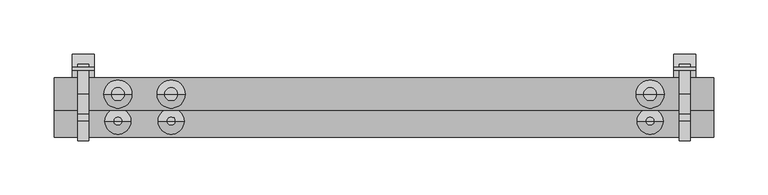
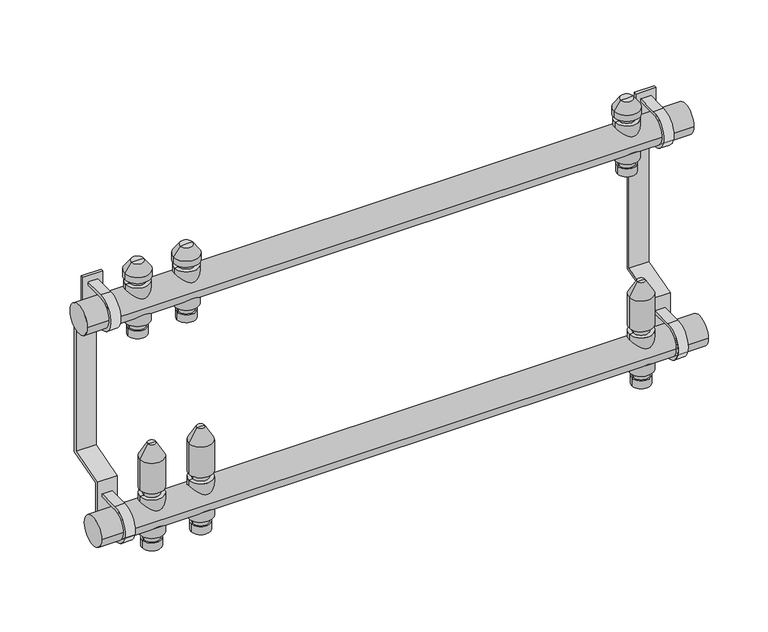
"""IFC4 building model written with IfcOpenShell, lengths in millimetres: valve geometry, PL AT_Manifold_FT-EV : 11 circuits."""

from ifc_helpers import new_model, si_unit, point, frame, frame_2d, origin, origin_2d, place, context, project, spatial, polyline, circle_curve, trimmed, segment, composite_curve, outline, extrude, source, transform, mapped, element, save
from ifc_brep_helpers import plane_surface, cylinder_surface, revolved_surface, advanced_brep


def valve_25ad0012(model_context):
    return source(origin(), model_context, "Body", "SolidModel", [
        advanced_brep(
        [(81.7, 0.0, -35.11267), (100.7, 0.0, -35.11267), (91.2, 0.0, -35.11267), (81.7, 0.0, -27.0369646), (100.7, 0.0, -27.0369646), (83.2, 0.0, -27.0369646), (99.2, 0.0, -27.0369646), (83.2, 0.0, -20.330253), (99.2, 0.0, -20.330253), (79.2, 0.0, -20.330253), (103.2, 0.0, -20.330253), (79.2, 0.0, 20.330253), (103.2, 0.0, 20.330253), (83.2, 0.0, 20.330253), (99.2, 0.0, 20.330253), (83.2, 0.0, 27.0474786), (99.2, 0.0, 27.0474786), (79.2, 0.0, 27.0474786), (103.2, 0.0, 27.0474786), (79.2, 0.0, 59.4084325), (103.2, 0.0, 59.4084325), (87.2, 0.0, 73.264839), (95.2, 0.0, 73.264839), (91.2, 0.0, 73.264839)],
        [
            (0, 1, circle_curve(frame((91.2, 0.0, -35.11267), z_axis=(0.0, 0.0, -1.0), x_axis=(1.0, 0.0, 0.0)), 9.5)),
            (1, 2),
            (2, 0),
            (1, 0, circle_curve(frame((91.2, 0.0, -35.11267), z_axis=(0.0, 0.0, -1.0), x_axis=(1.0, 0.0, 0.0)), 9.5)),
            (3, 4, circle_curve(frame((91.2, 0.0, -27.0369646), z_axis=(0.0, 0.0, -1.0), x_axis=(1.0, 0.0, 0.0)), 9.5)),
            (4, 1),
            (0, 3),
            (4, 3, circle_curve(frame((91.2, 0.0, -27.0369646), z_axis=(0.0, 0.0, -1.0), x_axis=(1.0, 0.0, 0.0)), 9.5)),
            (5, 6, circle_curve(frame((91.2, 0.0, -27.0369646), z_axis=(0.0, 0.0, -1.0), x_axis=(1.0, 0.0, 0.0)), 8.0)),
            (6, 4),
            (3, 5),
            (6, 5, circle_curve(frame((91.2, 0.0, -27.0369646), z_axis=(0.0, 0.0, -1.0), x_axis=(1.0, 0.0, 0.0)), 8.0)),
            (7, 8, circle_curve(frame((91.2, 0.0, -20.330253), z_axis=(0.0, 0.0, -1.0), x_axis=(1.0, 0.0, 0.0)), 8.0)),
            (8, 6),
            (5, 7),
            (8, 7, circle_curve(frame((91.2, 0.0, -20.330253), z_axis=(0.0, 0.0, -1.0), x_axis=(1.0, 0.0, 0.0)), 8.0)),
            (9, 10, circle_curve(frame((91.2, 0.0, -20.330253), z_axis=(0.0, 0.0, -1.0), x_axis=(1.0, 0.0, 0.0)), 12.0)),
            (10, 8),
            (7, 9),
            (10, 9, circle_curve(frame((91.2, 0.0, -20.330253), z_axis=(0.0, 0.0, -1.0), x_axis=(1.0, 0.0, 0.0)), 12.0)),
            (11, 12, circle_curve(frame((91.2, 0.0, 20.330253), z_axis=(0.0, 0.0, -1.0), x_axis=(1.0, 0.0, 0.0)), 12.0)),
            (12, 10),
            (9, 11),
            (12, 11, circle_curve(frame((91.2, 0.0, 20.330253), z_axis=(0.0, 0.0, -1.0), x_axis=(1.0, 0.0, 0.0)), 12.0)),
            (13, 14, circle_curve(frame((91.2, 0.0, 20.330253), z_axis=(0.0, 0.0, -1.0), x_axis=(1.0, 0.0, 0.0)), 8.0)),
            (14, 12),
            (11, 13),
            (14, 13, circle_curve(frame((91.2, 0.0, 20.330253), z_axis=(0.0, 0.0, -1.0), x_axis=(1.0, 0.0, 0.0)), 8.0)),
            (15, 16, circle_curve(frame((91.2, 0.0, 27.0474786), z_axis=(0.0, 0.0, -1.0), x_axis=(1.0, 0.0, 0.0)), 8.0)),
            (16, 14),
            (13, 15),
            (16, 15, circle_curve(frame((91.2, 0.0, 27.0474786), z_axis=(0.0, 0.0, -1.0), x_axis=(1.0, 0.0, 0.0)), 8.0)),
            (17, 18, circle_curve(frame((91.2, 0.0, 27.0474786), z_axis=(0.0, 0.0, -1.0), x_axis=(1.0, 0.0, 0.0)), 12.0)),
            (18, 16),
            (15, 17),
            (18, 17, circle_curve(frame((91.2, 0.0, 27.0474786), z_axis=(0.0, 0.0, -1.0), x_axis=(1.0, 0.0, 0.0)), 12.0)),
            (19, 20, circle_curve(frame((91.2, 0.0, 59.4084325), z_axis=(0.0, 0.0, -1.0), x_axis=(1.0, 0.0, 0.0)), 12.0)),
            (20, 18),
            (17, 19),
            (20, 19, circle_curve(frame((91.2, 0.0, 59.4084325), z_axis=(0.0, 0.0, -1.0), x_axis=(1.0, 0.0, 0.0)), 12.0)),
            (21, 22, circle_curve(frame((91.2, 0.0, 73.264839), z_axis=(0.0, 0.0, -1.0), x_axis=(1.0, 0.0, 0.0)), 4.0)),
            (22, 20),
            (19, 21),
            (22, 21, circle_curve(frame((91.2, 0.0, 73.264839), z_axis=(0.0, 0.0, -1.0), x_axis=(1.0, 0.0, 0.0)), 4.0)),
            (23, 22),
            (21, 23),
        ],
        [
            plane_surface(frame((91.2, 0.0, -35.11267), z_axis=(0.0, 0.0, -1.0), x_axis=(1.0, 0.0, 0.0))),
            cylinder_surface(frame((91.2, 0.0, 58.264839), z_axis=(0.0, 0.0, 1.0), x_axis=(1.0, 0.0, 0.0)), 9.5),
            plane_surface(frame((91.2, 0.0, -27.0369646), z_axis=(0.0, 0.0, 1.0), x_axis=(1.0, 0.0, 0.0))),
            cylinder_surface(frame((91.2, 0.0, 58.264839), z_axis=(0.0, 0.0, 1.0), x_axis=(1.0, 0.0, 0.0)), 8.0),
            plane_surface(frame((91.2, 0.0, -20.330253), z_axis=(0.0, 0.0, -1.0), x_axis=(1.0, 0.0, 0.0))),
            cylinder_surface(frame((91.2, 0.0, 58.264839), z_axis=(0.0, 0.0, 1.0), x_axis=(1.0, 0.0, 0.0)), 12.0),
            plane_surface(frame((91.2, 0.0, 20.330253), z_axis=(0.0, 0.0, 1.0), x_axis=(1.0, 0.0, 0.0))),
            plane_surface(frame((91.2, 0.0, 27.0474786), z_axis=(0.0, 0.0, -1.0), x_axis=(1.0, 0.0, 0.0))),
            revolved_surface(polyline([(103.2, 0.0, 59.4084325), (95.2, 0.0, 73.264839)]), (91.2, 0.0, 58.264839), (0.0, 0.0, 1.0)),
            plane_surface(frame((91.2, 0.0, 73.264839), z_axis=(0.0, 0.0, 1.0), x_axis=(1.0, 0.0, 0.0))),
        ],
        [
            (0, [[1, 2, 3]]),
            (0, [[4, -3, -2]]),
            (1, [[5, 6, -1, 7]]),
            (1, [[8, -7, -4, -6]]),
            (2, [[9, 10, -5, 11]]),
            (2, [[12, -11, -8, -10]]),
            (3, [[13, 14, -9, 15]]),
            (3, [[16, -15, -12, -14]]),
            (4, [[17, 18, -13, 19]]),
            (4, [[20, -19, -16, -18]]),
            (5, [[21, 22, -17, 23]]),
            (5, [[24, -23, -20, -22]]),
            (6, [[25, 26, -21, 27]]),
            (6, [[28, -27, -24, -26]]),
            (3, [[29, 30, -25, 31]]),
            (3, [[32, -31, -28, -30]]),
            (7, [[33, 34, -29, 35]]),
            (7, [[36, -35, -32, -34]]),
            (5, [[37, 38, -33, 39]]),
            (5, [[40, -39, -36, -38]]),
            (8, [[41, 42, -37, 43]]),
            (8, [[44, -43, -40, -42]]),
            (9, [[45, -41, 46]]),
            (9, [[-46, -44, -45]]),
        ],
    ),
        advanced_brep(
        [(81.7, 25.0, 174.88733), (100.7, 25.0, 174.88733), (91.2, 25.0, 174.88733), (81.7, 25.0, 182.9630354), (100.7, 25.0, 182.9630354), (83.2, 25.0, 182.9630354), (99.2, 25.0, 182.9630354), (83.2, 25.0, 189.669747), (99.2, 25.0, 189.669747), (79.2, 25.0, 189.669747), (103.2, 25.0, 189.669747), (79.2, 25.0, 230.330253), (103.2, 25.0, 230.330253), (83.2, 25.0, 230.330253), (99.2, 25.0, 230.330253), (83.2, 25.0, 236.0474786), (99.2, 25.0, 236.0474786), (78.2, 25.0, 236.0474786), (104.2, 25.0, 236.0474786), (78.2, 25.0, 242.337955), (104.2, 25.0, 242.337955), (84.8551779, 25.0, 251.842534), (97.5448221, 25.0, 251.842534), (91.2, 25.0, 251.842534)],
        [
            (0, 1, circle_curve(frame((91.2, 25.0, 174.88733), z_axis=(0.0, 0.0, -1.0), x_axis=(1.0, 0.0, 0.0)), 9.5)),
            (1, 2),
            (2, 0),
            (1, 0, circle_curve(frame((91.2, 25.0, 174.88733), z_axis=(0.0, 0.0, -1.0), x_axis=(1.0, 0.0, 0.0)), 9.5)),
            (3, 4, circle_curve(frame((91.2, 25.0, 182.9630354), z_axis=(0.0, 0.0, -1.0), x_axis=(1.0, 0.0, 0.0)), 9.5)),
            (4, 1),
            (0, 3),
            (4, 3, circle_curve(frame((91.2, 25.0, 182.9630354), z_axis=(0.0, 0.0, -1.0), x_axis=(1.0, 0.0, 0.0)), 9.5)),
            (5, 6, circle_curve(frame((91.2, 25.0, 182.9630354), z_axis=(0.0, 0.0, -1.0), x_axis=(1.0, 0.0, 0.0)), 8.0)),
            (6, 4),
            (3, 5),
            (6, 5, circle_curve(frame((91.2, 25.0, 182.9630354), z_axis=(0.0, 0.0, -1.0), x_axis=(1.0, 0.0, 0.0)), 8.0)),
            (7, 8, circle_curve(frame((91.2, 25.0, 189.669747), z_axis=(0.0, 0.0, -1.0), x_axis=(1.0, 0.0, 0.0)), 8.0)),
            (8, 6),
            (5, 7),
            (8, 7, circle_curve(frame((91.2, 25.0, 189.669747), z_axis=(0.0, 0.0, -1.0), x_axis=(1.0, 0.0, 0.0)), 8.0)),
            (9, 10, circle_curve(frame((91.2, 25.0, 189.669747), z_axis=(0.0, 0.0, -1.0), x_axis=(1.0, 0.0, 0.0)), 12.0)),
            (10, 8),
            (7, 9),
            (10, 9, circle_curve(frame((91.2, 25.0, 189.669747), z_axis=(0.0, 0.0, -1.0), x_axis=(1.0, 0.0, 0.0)), 12.0)),
            (11, 12, circle_curve(frame((91.2, 25.0, 230.330253), z_axis=(0.0, 0.0, -1.0), x_axis=(1.0, 0.0, 0.0)), 12.0)),
            (12, 10),
            (9, 11),
            (12, 11, circle_curve(frame((91.2, 25.0, 230.330253), z_axis=(0.0, 0.0, -1.0), x_axis=(1.0, 0.0, 0.0)), 12.0)),
            (13, 14, circle_curve(frame((91.2, 25.0, 230.330253), z_axis=(0.0, 0.0, -1.0), x_axis=(1.0, 0.0, 0.0)), 8.0)),
            (14, 12),
            (11, 13),
            (14, 13, circle_curve(frame((91.2, 25.0, 230.330253), z_axis=(0.0, 0.0, -1.0), x_axis=(1.0, 0.0, 0.0)), 8.0)),
            (15, 16, circle_curve(frame((91.2, 25.0, 236.0474786), z_axis=(0.0, 0.0, -1.0), x_axis=(1.0, 0.0, 0.0)), 8.0)),
            (16, 14),
            (13, 15),
            (16, 15, circle_curve(frame((91.2, 25.0, 236.0474786), z_axis=(0.0, 0.0, -1.0), x_axis=(1.0, 0.0, 0.0)), 8.0)),
            (17, 18, circle_curve(frame((91.2, 25.0, 236.0474786), z_axis=(0.0, 0.0, -1.0), x_axis=(1.0, 0.0, 0.0)), 13.0)),
            (18, 16),
            (15, 17),
            (18, 17, circle_curve(frame((91.2, 25.0, 236.0474786), z_axis=(0.0, 0.0, -1.0), x_axis=(1.0, 0.0, 0.0)), 13.0)),
            (19, 20, circle_curve(frame((91.2, 25.0, 242.337955), z_axis=(0.0, 0.0, -1.0), x_axis=(1.0, 0.0, 0.0)), 13.0)),
            (20, 18),
            (17, 19),
            (20, 19, circle_curve(frame((91.2, 25.0, 242.337955), z_axis=(0.0, 0.0, -1.0), x_axis=(1.0, 0.0, 0.0)), 13.0)),
            (21, 22, circle_curve(frame((91.2, 25.0, 251.842534), z_axis=(0.0, 0.0, -1.0), x_axis=(1.0, 0.0, 0.0)), 6.3448221)),
            (22, 20),
            (19, 21),
            (22, 21, circle_curve(frame((91.2, 25.0, 251.842534), z_axis=(0.0, 0.0, -1.0), x_axis=(1.0, 0.0, 0.0)), 6.3448221)),
            (23, 22),
            (21, 23),
        ],
        [
            plane_surface(frame((91.2, 25.0, 174.88733), z_axis=(0.0, 0.0, -1.0), x_axis=(1.0, 0.0, 0.0))),
            cylinder_surface(frame((91.2, 25.0, 247.7026565), z_axis=(0.0, 0.0, 1.0), x_axis=(1.0, 0.0, 0.0)), 9.5),
            plane_surface(frame((91.2, 25.0, 182.9630354), z_axis=(0.0, 0.0, 1.0), x_axis=(1.0, 0.0, 0.0))),
            cylinder_surface(frame((91.2, 25.0, 247.7026565), z_axis=(0.0, 0.0, 1.0), x_axis=(1.0, 0.0, 0.0)), 8.0),
            plane_surface(frame((91.2, 25.0, 189.669747), z_axis=(0.0, 0.0, -1.0), x_axis=(1.0, 0.0, 0.0))),
            cylinder_surface(frame((91.2, 25.0, 247.7026565), z_axis=(0.0, 0.0, 1.0), x_axis=(1.0, 0.0, 0.0)), 12.0),
            plane_surface(frame((91.2, 25.0, 230.330253), z_axis=(0.0, 0.0, 1.0), x_axis=(1.0, 0.0, 0.0))),
            plane_surface(frame((91.2, 25.0, 236.0474786), z_axis=(0.0, 0.0, -1.0), x_axis=(1.0, 0.0, 0.0))),
            cylinder_surface(frame((91.2, 25.0, 247.7026565), z_axis=(0.0, 0.0, 1.0), x_axis=(1.0, 0.0, 0.0)), 13.0),
            revolved_surface(polyline([(104.2, 25.0, 242.337955), (97.5448221, 25.0, 251.842534)]), (91.2, 25.0, 247.7026565), (0.0, 0.0, 1.0)),
            plane_surface(frame((91.2, 25.0, 251.842534), z_axis=(0.0, 0.0, 1.0), x_axis=(1.0, 0.0, 0.0))),
        ],
        [
            (0, [[1, 2, 3]]),
            (0, [[4, -3, -2]]),
            (1, [[5, 6, -1, 7]]),
            (1, [[8, -7, -4, -6]]),
            (2, [[9, 10, -5, 11]]),
            (2, [[12, -11, -8, -10]]),
            (3, [[13, 14, -9, 15]]),
            (3, [[16, -15, -12, -14]]),
            (4, [[17, 18, -13, 19]]),
            (4, [[20, -19, -16, -18]]),
            (5, [[21, 22, -17, 23]]),
            (5, [[24, -23, -20, -22]]),
            (6, [[25, 26, -21, 27]]),
            (6, [[28, -27, -24, -26]]),
            (3, [[29, 30, -25, 31]]),
            (3, [[32, -31, -28, -30]]),
            (7, [[33, 34, -29, 35]]),
            (7, [[36, -35, -32, -34]]),
            (8, [[37, 38, -33, 39]]),
            (8, [[40, -39, -36, -38]]),
            (9, [[41, 42, -37, 43]]),
            (9, [[44, -43, -40, -42]]),
            (10, [[45, -41, 46]]),
            (10, [[-46, -44, -45]]),
        ],
    ),
        advanced_brep(
        [(524.5, 0.0, -35.11267), (543.5, 0.0, -35.11267), (534.0, 0.0, -35.11267), (524.5, 0.0, -27.0369646), (543.5, 0.0, -27.0369646), (526.0, 0.0, -27.0369646), (542.0, 0.0, -27.0369646), (526.0, 0.0, -20.330253), (542.0, 0.0, -20.330253), (522.0, 0.0, -20.330253), (546.0, 0.0, -20.330253), (522.0, 0.0, 20.330253), (546.0, 0.0, 20.330253), (526.0, 0.0, 20.330253), (542.0, 0.0, 20.330253), (526.0, 0.0, 27.0474786), (542.0, 0.0, 27.0474786), (522.0, 0.0, 27.0474786), (546.0, 0.0, 27.0474786), (522.0, 0.0, 59.4084325), (546.0, 0.0, 59.4084325), (530.0, 0.0, 73.264839), (538.0, 0.0, 73.264839), (534.0, 0.0, 73.264839)],
        [
            (0, 1, circle_curve(frame((534.0, 0.0, -35.11267), z_axis=(0.0, 0.0, -1.0), x_axis=(1.0, 0.0, 0.0)), 9.5)),
            (1, 2),
            (2, 0),
            (1, 0, circle_curve(frame((534.0, 0.0, -35.11267), z_axis=(0.0, 0.0, -1.0), x_axis=(1.0, 0.0, 0.0)), 9.5)),
            (3, 4, circle_curve(frame((534.0, 0.0, -27.0369646), z_axis=(0.0, 0.0, -1.0), x_axis=(1.0, 0.0, 0.0)), 9.5)),
            (4, 1),
            (0, 3),
            (4, 3, circle_curve(frame((534.0, 0.0, -27.0369646), z_axis=(0.0, 0.0, -1.0), x_axis=(1.0, 0.0, 0.0)), 9.5)),
            (5, 6, circle_curve(frame((534.0, 0.0, -27.0369646), z_axis=(0.0, 0.0, -1.0), x_axis=(1.0, 0.0, 0.0)), 8.0)),
            (6, 4),
            (3, 5),
            (6, 5, circle_curve(frame((534.0, 0.0, -27.0369646), z_axis=(0.0, 0.0, -1.0), x_axis=(1.0, 0.0, 0.0)), 8.0)),
            (7, 8, circle_curve(frame((534.0, 0.0, -20.330253), z_axis=(0.0, 0.0, -1.0), x_axis=(1.0, 0.0, 0.0)), 8.0)),
            (8, 6),
            (5, 7),
            (8, 7, circle_curve(frame((534.0, 0.0, -20.330253), z_axis=(0.0, 0.0, -1.0), x_axis=(1.0, 0.0, 0.0)), 8.0)),
            (9, 10, circle_curve(frame((534.0, 0.0, -20.330253), z_axis=(0.0, 0.0, -1.0), x_axis=(1.0, 0.0, 0.0)), 12.0)),
            (10, 8),
            (7, 9),
            (10, 9, circle_curve(frame((534.0, 0.0, -20.330253), z_axis=(0.0, 0.0, -1.0), x_axis=(1.0, 0.0, 0.0)), 12.0)),
            (11, 12, circle_curve(frame((534.0, 0.0, 20.330253), z_axis=(0.0, 0.0, -1.0), x_axis=(1.0, 0.0, 0.0)), 12.0)),
            (12, 10),
            (9, 11),
            (12, 11, circle_curve(frame((534.0, 0.0, 20.330253), z_axis=(0.0, 0.0, -1.0), x_axis=(1.0, 0.0, 0.0)), 12.0)),
            (13, 14, circle_curve(frame((534.0, 0.0, 20.330253), z_axis=(0.0, 0.0, -1.0), x_axis=(1.0, 0.0, 0.0)), 8.0)),
            (14, 12),
            (11, 13),
            (14, 13, circle_curve(frame((534.0, 0.0, 20.330253), z_axis=(0.0, 0.0, -1.0), x_axis=(1.0, 0.0, 0.0)), 8.0)),
            (15, 16, circle_curve(frame((534.0, 0.0, 27.0474786), z_axis=(0.0, 0.0, -1.0), x_axis=(1.0, 0.0, 0.0)), 8.0)),
            (16, 14),
            (13, 15),
            (16, 15, circle_curve(frame((534.0, 0.0, 27.0474786), z_axis=(0.0, 0.0, -1.0), x_axis=(1.0, 0.0, 0.0)), 8.0)),
            (17, 18, circle_curve(frame((534.0, 0.0, 27.0474786), z_axis=(0.0, 0.0, -1.0), x_axis=(1.0, 0.0, 0.0)), 12.0)),
            (18, 16),
            (15, 17),
            (18, 17, circle_curve(frame((534.0, 0.0, 27.0474786), z_axis=(0.0, 0.0, -1.0), x_axis=(1.0, 0.0, 0.0)), 12.0)),
            (19, 20, circle_curve(frame((534.0, 0.0, 59.4084325), z_axis=(0.0, 0.0, -1.0), x_axis=(1.0, 0.0, 0.0)), 12.0)),
            (20, 18),
            (17, 19),
            (20, 19, circle_curve(frame((534.0, 0.0, 59.4084325), z_axis=(0.0, 0.0, -1.0), x_axis=(1.0, 0.0, 0.0)), 12.0)),
            (21, 22, circle_curve(frame((534.0, 0.0, 73.264839), z_axis=(0.0, 0.0, -1.0), x_axis=(1.0, 0.0, 0.0)), 4.0)),
            (22, 20),
            (19, 21),
            (22, 21, circle_curve(frame((534.0, 0.0, 73.264839), z_axis=(0.0, 0.0, -1.0), x_axis=(1.0, 0.0, 0.0)), 4.0)),
            (23, 22),
            (21, 23),
        ],
        [
            plane_surface(frame((534.0, 0.0, -35.11267), z_axis=(0.0, 0.0, -1.0), x_axis=(1.0, 0.0, 0.0))),
            cylinder_surface(frame((534.0, 0.0, 58.264839), z_axis=(0.0, 0.0, 1.0), x_axis=(1.0, 0.0, 0.0)), 9.5),
            plane_surface(frame((534.0, 0.0, -27.0369646), z_axis=(0.0, 0.0, 1.0), x_axis=(1.0, 0.0, 0.0))),
            cylinder_surface(frame((534.0, 0.0, 58.264839), z_axis=(0.0, 0.0, 1.0), x_axis=(1.0, 0.0, 0.0)), 8.0),
            plane_surface(frame((534.0, 0.0, -20.330253), z_axis=(0.0, 0.0, -1.0), x_axis=(1.0, 0.0, 0.0))),
            cylinder_surface(frame((534.0, 0.0, 58.264839), z_axis=(0.0, 0.0, 1.0), x_axis=(1.0, 0.0, 0.0)), 12.0),
            plane_surface(frame((534.0, 0.0, 20.330253), z_axis=(0.0, 0.0, 1.0), x_axis=(1.0, 0.0, 0.0))),
            plane_surface(frame((534.0, 0.0, 27.0474786), z_axis=(0.0, 0.0, -1.0), x_axis=(1.0, 0.0, 0.0))),
            revolved_surface(polyline([(546.0, 0.0, 59.4084325), (538.0, 0.0, 73.264839)]), (534.0, 0.0, 58.264839), (0.0, 0.0, 1.0)),
            plane_surface(frame((534.0, 0.0, 73.264839), z_axis=(0.0, 0.0, 1.0), x_axis=(1.0, 0.0, 0.0))),
        ],
        [
            (0, [[1, 2, 3]]),
            (0, [[4, -3, -2]]),
            (1, [[5, 6, -1, 7]]),
            (1, [[8, -7, -4, -6]]),
            (2, [[9, 10, -5, 11]]),
            (2, [[12, -11, -8, -10]]),
            (3, [[13, 14, -9, 15]]),
            (3, [[16, -15, -12, -14]]),
            (4, [[17, 18, -13, 19]]),
            (4, [[20, -19, -16, -18]]),
            (5, [[21, 22, -17, 23]]),
            (5, [[24, -23, -20, -22]]),
            (6, [[25, 26, -21, 27]]),
            (6, [[28, -27, -24, -26]]),
            (3, [[29, 30, -25, 31]]),
            (3, [[32, -31, -28, -30]]),
            (7, [[33, 34, -29, 35]]),
            (7, [[36, -35, -32, -34]]),
            (5, [[37, 38, -33, 39]]),
            (5, [[40, -39, -36, -38]]),
            (8, [[41, 42, -37, 43]]),
            (8, [[44, -43, -40, -42]]),
            (9, [[45, -41, 46]]),
            (9, [[-46, -44, -45]]),
        ],
    ),
        advanced_brep(
        [(524.5, 25.0, 174.88733), (543.5, 25.0, 174.88733), (534.0, 25.0, 174.88733), (524.5, 25.0, 182.9630354), (543.5, 25.0, 182.9630354), (526.0, 25.0, 182.9630354), (542.0, 25.0, 182.9630354), (526.0, 25.0, 189.669747), (542.0, 25.0, 189.669747), (522.0, 25.0, 189.669747), (546.0, 25.0, 189.669747), (522.0, 25.0, 230.330253), (546.0, 25.0, 230.330253), (526.0, 25.0, 230.330253), (542.0, 25.0, 230.330253), (526.0, 25.0, 236.0474786), (542.0, 25.0, 236.0474786), (521.0, 25.0, 236.0474786), (547.0, 25.0, 236.0474786), (521.0, 25.0, 242.337955), (547.0, 25.0, 242.337955), (527.6551779, 25.0, 251.842534), (540.3448221, 25.0, 251.842534), (534.0, 25.0, 251.842534)],
        [
            (0, 1, circle_curve(frame((534.0, 25.0, 174.88733), z_axis=(0.0, 0.0, -1.0), x_axis=(1.0, 0.0, 0.0)), 9.5)),
            (1, 2),
            (2, 0),
            (1, 0, circle_curve(frame((534.0, 25.0, 174.88733), z_axis=(0.0, 0.0, -1.0), x_axis=(1.0, 0.0, 0.0)), 9.5)),
            (3, 4, circle_curve(frame((534.0, 25.0, 182.9630354), z_axis=(0.0, 0.0, -1.0), x_axis=(1.0, 0.0, 0.0)), 9.5)),
            (4, 1),
            (0, 3),
            (4, 3, circle_curve(frame((534.0, 25.0, 182.9630354), z_axis=(0.0, 0.0, -1.0), x_axis=(1.0, 0.0, 0.0)), 9.5)),
            (5, 6, circle_curve(frame((534.0, 25.0, 182.9630354), z_axis=(0.0, 0.0, -1.0), x_axis=(1.0, 0.0, 0.0)), 8.0)),
            (6, 4),
            (3, 5),
            (6, 5, circle_curve(frame((534.0, 25.0, 182.9630354), z_axis=(0.0, 0.0, -1.0), x_axis=(1.0, 0.0, 0.0)), 8.0)),
            (7, 8, circle_curve(frame((534.0, 25.0, 189.669747), z_axis=(0.0, 0.0, -1.0), x_axis=(1.0, 0.0, 0.0)), 8.0)),
            (8, 6),
            (5, 7),
            (8, 7, circle_curve(frame((534.0, 25.0, 189.669747), z_axis=(0.0, 0.0, -1.0), x_axis=(1.0, 0.0, 0.0)), 8.0)),
            (9, 10, circle_curve(frame((534.0, 25.0, 189.669747), z_axis=(0.0, 0.0, -1.0), x_axis=(1.0, 0.0, 0.0)), 12.0)),
            (10, 8),
            (7, 9),
            (10, 9, circle_curve(frame((534.0, 25.0, 189.669747), z_axis=(0.0, 0.0, -1.0), x_axis=(1.0, 0.0, 0.0)), 12.0)),
            (11, 12, circle_curve(frame((534.0, 25.0, 230.330253), z_axis=(0.0, 0.0, -1.0), x_axis=(1.0, 0.0, 0.0)), 12.0)),
            (12, 10),
            (9, 11),
            (12, 11, circle_curve(frame((534.0, 25.0, 230.330253), z_axis=(0.0, 0.0, -1.0), x_axis=(1.0, 0.0, 0.0)), 12.0)),
            (13, 14, circle_curve(frame((534.0, 25.0, 230.330253), z_axis=(0.0, 0.0, -1.0), x_axis=(1.0, 0.0, 0.0)), 8.0)),
            (14, 12),
            (11, 13),
            (14, 13, circle_curve(frame((534.0, 25.0, 230.330253), z_axis=(0.0, 0.0, -1.0), x_axis=(1.0, 0.0, 0.0)), 8.0)),
            (15, 16, circle_curve(frame((534.0, 25.0, 236.0474786), z_axis=(0.0, 0.0, -1.0), x_axis=(1.0, 0.0, 0.0)), 8.0)),
            (16, 14),
            (13, 15),
            (16, 15, circle_curve(frame((534.0, 25.0, 236.0474786), z_axis=(0.0, 0.0, -1.0), x_axis=(1.0, 0.0, 0.0)), 8.0)),
            (17, 18, circle_curve(frame((534.0, 25.0, 236.0474786), z_axis=(0.0, 0.0, -1.0), x_axis=(1.0, 0.0, 0.0)), 13.0)),
            (18, 16),
            (15, 17),
            (18, 17, circle_curve(frame((534.0, 25.0, 236.0474786), z_axis=(0.0, 0.0, -1.0), x_axis=(1.0, 0.0, 0.0)), 13.0)),
            (19, 20, circle_curve(frame((534.0, 25.0, 242.337955), z_axis=(0.0, 0.0, -1.0), x_axis=(1.0, 0.0, 0.0)), 13.0)),
            (20, 18),
            (17, 19),
            (20, 19, circle_curve(frame((534.0, 25.0, 242.337955), z_axis=(0.0, 0.0, -1.0), x_axis=(1.0, 0.0, 0.0)), 13.0)),
            (21, 22, circle_curve(frame((534.0, 25.0, 251.842534), z_axis=(0.0, 0.0, -1.0), x_axis=(1.0, 0.0, 0.0)), 6.3448221)),
            (22, 20),
            (19, 21),
            (22, 21, circle_curve(frame((534.0, 25.0, 251.842534), z_axis=(0.0, 0.0, -1.0), x_axis=(1.0, 0.0, 0.0)), 6.3448221)),
            (23, 22),
            (21, 23),
        ],
        [
            plane_surface(frame((534.0, 25.0, 174.88733), z_axis=(0.0, 0.0, -1.0), x_axis=(1.0, 0.0, 0.0))),
            cylinder_surface(frame((534.0, 25.0, 247.7026565), z_axis=(0.0, 0.0, 1.0), x_axis=(1.0, 0.0, 0.0)), 9.5),
            plane_surface(frame((534.0, 25.0, 182.9630354), z_axis=(0.0, 0.0, 1.0), x_axis=(1.0, 0.0, 0.0))),
            cylinder_surface(frame((534.0, 25.0, 247.7026565), z_axis=(0.0, 0.0, 1.0), x_axis=(1.0, 0.0, 0.0)), 8.0),
            plane_surface(frame((534.0, 25.0, 189.669747), z_axis=(0.0, 0.0, -1.0), x_axis=(1.0, 0.0, 0.0))),
            cylinder_surface(frame((534.0, 25.0, 247.7026565), z_axis=(0.0, 0.0, 1.0), x_axis=(1.0, 0.0, 0.0)), 12.0),
            plane_surface(frame((534.0, 25.0, 230.330253), z_axis=(0.0, 0.0, 1.0), x_axis=(1.0, 0.0, 0.0))),
            plane_surface(frame((534.0, 25.0, 236.0474786), z_axis=(0.0, 0.0, -1.0), x_axis=(1.0, 0.0, 0.0))),
            cylinder_surface(frame((534.0, 25.0, 247.7026565), z_axis=(0.0, 0.0, 1.0), x_axis=(1.0, 0.0, 0.0)), 13.0),
            revolved_surface(polyline([(547.0, 25.0, 242.337955), (540.3448221, 25.0, 251.842534)]), (534.0, 25.0, 247.7026565), (0.0, 0.0, 1.0)),
            plane_surface(frame((534.0, 25.0, 251.842534), z_axis=(0.0, 0.0, 1.0), x_axis=(1.0, 0.0, 0.0))),
        ],
        [
            (0, [[1, 2, 3]]),
            (0, [[4, -3, -2]]),
            (1, [[5, 6, -1, 7]]),
            (1, [[8, -7, -4, -6]]),
            (2, [[9, 10, -5, 11]]),
            (2, [[12, -11, -8, -10]]),
            (3, [[13, 14, -9, 15]]),
            (3, [[16, -15, -12, -14]]),
            (4, [[17, 18, -13, 19]]),
            (4, [[20, -19, -16, -18]]),
            (5, [[21, 22, -17, 23]]),
            (5, [[24, -23, -20, -22]]),
            (6, [[25, 26, -21, 27]]),
            (6, [[28, -27, -24, -26]]),
            (3, [[29, 30, -25, 31]]),
            (3, [[32, -31, -28, -30]]),
            (7, [[33, 34, -29, 35]]),
            (7, [[36, -35, -32, -34]]),
            (8, [[37, 38, -33, 39]]),
            (8, [[40, -39, -36, -38]]),
            (9, [[41, 42, -37, 43]]),
            (9, [[44, -43, -40, -42]]),
            (10, [[45, -41, 46]]),
            (10, [[-46, -44, -45]]),
        ],
    ),
        advanced_brep(
        [(32.5, 25.0, 174.88733), (51.5, 25.0, 174.88733), (42.0, 25.0, 174.88733), (32.5, 25.0, 182.9630354), (51.5, 25.0, 182.9630354), (34.0, 25.0, 182.9630354), (50.0, 25.0, 182.9630354), (34.0, 25.0, 189.669747), (50.0, 25.0, 189.669747), (30.0, 25.0, 189.669747), (54.0, 25.0, 189.669747), (30.0, 25.0, 230.330253), (54.0, 25.0, 230.330253), (34.0, 25.0, 230.330253), (50.0, 25.0, 230.330253), (34.0, 25.0, 236.0474786), (50.0, 25.0, 236.0474786), (29.0, 25.0, 236.0474786), (55.0, 25.0, 236.0474786), (29.0, 25.0, 242.337955), (55.0, 25.0, 242.337955), (35.6551779, 25.0, 251.842534), (48.3448221, 25.0, 251.842534), (42.0, 25.0, 251.842534)],
        [
            (0, 1, circle_curve(frame((42.0, 25.0, 174.88733), z_axis=(0.0, 0.0, -1.0), x_axis=(1.0, 0.0, 0.0)), 9.5)),
            (1, 2),
            (2, 0),
            (1, 0, circle_curve(frame((42.0, 25.0, 174.88733), z_axis=(0.0, 0.0, -1.0), x_axis=(1.0, 0.0, 0.0)), 9.5)),
            (3, 4, circle_curve(frame((42.0, 25.0, 182.9630354), z_axis=(0.0, 0.0, -1.0), x_axis=(1.0, 0.0, 0.0)), 9.5)),
            (4, 1),
            (0, 3),
            (4, 3, circle_curve(frame((42.0, 25.0, 182.9630354), z_axis=(0.0, 0.0, -1.0), x_axis=(1.0, 0.0, 0.0)), 9.5)),
            (5, 6, circle_curve(frame((42.0, 25.0, 182.9630354), z_axis=(0.0, 0.0, -1.0), x_axis=(1.0, 0.0, 0.0)), 8.0)),
            (6, 4),
            (3, 5),
            (6, 5, circle_curve(frame((42.0, 25.0, 182.9630354), z_axis=(0.0, 0.0, -1.0), x_axis=(1.0, 0.0, 0.0)), 8.0)),
            (7, 8, circle_curve(frame((42.0, 25.0, 189.669747), z_axis=(0.0, 0.0, -1.0), x_axis=(1.0, 0.0, 0.0)), 8.0)),
            (8, 6),
            (5, 7),
            (8, 7, circle_curve(frame((42.0, 25.0, 189.669747), z_axis=(0.0, 0.0, -1.0), x_axis=(1.0, 0.0, 0.0)), 8.0)),
            (9, 10, circle_curve(frame((42.0, 25.0, 189.669747), z_axis=(0.0, 0.0, -1.0), x_axis=(1.0, 0.0, 0.0)), 12.0)),
            (10, 8),
            (7, 9),
            (10, 9, circle_curve(frame((42.0, 25.0, 189.669747), z_axis=(0.0, 0.0, -1.0), x_axis=(1.0, 0.0, 0.0)), 12.0)),
            (11, 12, circle_curve(frame((42.0, 25.0, 230.330253), z_axis=(0.0, 0.0, -1.0), x_axis=(1.0, 0.0, 0.0)), 12.0)),
            (12, 10),
            (9, 11),
            (12, 11, circle_curve(frame((42.0, 25.0, 230.330253), z_axis=(0.0, 0.0, -1.0), x_axis=(1.0, 0.0, 0.0)), 12.0)),
            (13, 14, circle_curve(frame((42.0, 25.0, 230.330253), z_axis=(0.0, 0.0, -1.0), x_axis=(1.0, 0.0, 0.0)), 8.0)),
            (14, 12),
            (11, 13),
            (14, 13, circle_curve(frame((42.0, 25.0, 230.330253), z_axis=(0.0, 0.0, -1.0), x_axis=(1.0, 0.0, 0.0)), 8.0)),
            (15, 16, circle_curve(frame((42.0, 25.0, 236.0474786), z_axis=(0.0, 0.0, -1.0), x_axis=(1.0, 0.0, 0.0)), 8.0)),
            (16, 14),
            (13, 15),
            (16, 15, circle_curve(frame((42.0, 25.0, 236.0474786), z_axis=(0.0, 0.0, -1.0), x_axis=(1.0, 0.0, 0.0)), 8.0)),
            (17, 18, circle_curve(frame((42.0, 25.0, 236.0474786), z_axis=(0.0, 0.0, -1.0), x_axis=(1.0, 0.0, 0.0)), 13.0)),
            (18, 16),
            (15, 17),
            (18, 17, circle_curve(frame((42.0, 25.0, 236.0474786), z_axis=(0.0, 0.0, -1.0), x_axis=(1.0, 0.0, 0.0)), 13.0)),
            (19, 20, circle_curve(frame((42.0, 25.0, 242.337955), z_axis=(0.0, 0.0, -1.0), x_axis=(1.0, 0.0, 0.0)), 13.0)),
            (20, 18),
            (17, 19),
            (20, 19, circle_curve(frame((42.0, 25.0, 242.337955), z_axis=(0.0, 0.0, -1.0), x_axis=(1.0, 0.0, 0.0)), 13.0)),
            (21, 22, circle_curve(frame((42.0, 25.0, 251.842534), z_axis=(0.0, 0.0, -1.0), x_axis=(1.0, 0.0, 0.0)), 6.3448221)),
            (22, 20),
            (19, 21),
            (22, 21, circle_curve(frame((42.0, 25.0, 251.842534), z_axis=(0.0, 0.0, -1.0), x_axis=(1.0, 0.0, 0.0)), 6.3448221)),
            (23, 22),
            (21, 23),
        ],
        [
            plane_surface(frame((42.0, 25.0, 174.88733), z_axis=(0.0, 0.0, -1.0), x_axis=(1.0, 0.0, 0.0))),
            cylinder_surface(frame((42.0, 25.0, 247.7026565), z_axis=(0.0, 0.0, 1.0), x_axis=(1.0, 0.0, 0.0)), 9.5),
            plane_surface(frame((42.0, 25.0, 182.9630354), z_axis=(0.0, 0.0, 1.0), x_axis=(1.0, 0.0, 0.0))),
            cylinder_surface(frame((42.0, 25.0, 247.7026565), z_axis=(0.0, 0.0, 1.0), x_axis=(1.0, 0.0, 0.0)), 8.0),
            plane_surface(frame((42.0, 25.0, 189.669747), z_axis=(0.0, 0.0, -1.0), x_axis=(1.0, 0.0, 0.0))),
            cylinder_surface(frame((42.0, 25.0, 247.7026565), z_axis=(0.0, 0.0, 1.0), x_axis=(1.0, 0.0, 0.0)), 12.0),
            plane_surface(frame((42.0, 25.0, 230.330253), z_axis=(0.0, 0.0, 1.0), x_axis=(1.0, 0.0, 0.0))),
            plane_surface(frame((42.0, 25.0, 236.0474786), z_axis=(0.0, 0.0, -1.0), x_axis=(1.0, 0.0, 0.0))),
            cylinder_surface(frame((42.0, 25.0, 247.7026565), z_axis=(0.0, 0.0, 1.0), x_axis=(1.0, 0.0, 0.0)), 13.0),
            revolved_surface(polyline([(55.0, 25.0, 242.337955), (48.3448221, 25.0, 251.842534)]), (42.0, 25.0, 247.7026565), (0.0, 0.0, 1.0)),
            plane_surface(frame((42.0, 25.0, 251.842534), z_axis=(0.0, 0.0, 1.0), x_axis=(1.0, 0.0, 0.0))),
        ],
        [
            (0, [[1, 2, 3]]),
            (0, [[4, -3, -2]]),
            (1, [[5, 6, -1, 7]]),
            (1, [[8, -7, -4, -6]]),
            (2, [[9, 10, -5, 11]]),
            (2, [[12, -11, -8, -10]]),
            (3, [[13, 14, -9, 15]]),
            (3, [[16, -15, -12, -14]]),
            (4, [[17, 18, -13, 19]]),
            (4, [[20, -19, -16, -18]]),
            (5, [[21, 22, -17, 23]]),
            (5, [[24, -23, -20, -22]]),
            (6, [[25, 26, -21, 27]]),
            (6, [[28, -27, -24, -26]]),
            (3, [[29, 30, -25, 31]]),
            (3, [[32, -31, -28, -30]]),
            (7, [[33, 34, -29, 35]]),
            (7, [[36, -35, -32, -34]]),
            (8, [[37, 38, -33, 39]]),
            (8, [[40, -39, -36, -38]]),
            (9, [[41, 42, -37, 43]]),
            (9, [[44, -43, -40, -42]]),
            (10, [[45, -41, 46]]),
            (10, [[-46, -44, -45]]),
        ],
    ),
        advanced_brep(
        [(32.5, 0.0, -35.11267), (51.5, 0.0, -35.11267), (42.0, 0.0, -35.11267), (32.5, 0.0, -27.0369646), (51.5, 0.0, -27.0369646), (34.0, 0.0, -27.0369646), (50.0, 0.0, -27.0369646), (34.0, 0.0, -20.330253), (50.0, 0.0, -20.330253), (30.0, 0.0, -20.330253), (54.0, 0.0, -20.330253), (30.0, 0.0, 20.330253), (54.0, 0.0, 20.330253), (34.0, 0.0, 20.330253), (50.0, 0.0, 20.330253), (34.0, 0.0, 27.0474786), (50.0, 0.0, 27.0474786), (30.0, 0.0, 27.0474786), (54.0, 0.0, 27.0474786), (30.0, 0.0, 59.4084325), (54.0, 0.0, 59.4084325), (38.0, 0.0, 73.264839), (46.0, 0.0, 73.264839), (42.0, 0.0, 73.264839)],
        [
            (0, 1, circle_curve(frame((42.0, 0.0, -35.11267), z_axis=(0.0, 0.0, -1.0), x_axis=(1.0, 0.0, 0.0)), 9.5)),
            (1, 2),
            (2, 0),
            (1, 0, circle_curve(frame((42.0, 0.0, -35.11267), z_axis=(0.0, 0.0, -1.0), x_axis=(1.0, 0.0, 0.0)), 9.5)),
            (3, 4, circle_curve(frame((42.0, 0.0, -27.0369646), z_axis=(0.0, 0.0, -1.0), x_axis=(1.0, 0.0, 0.0)), 9.5)),
            (4, 1),
            (0, 3),
            (4, 3, circle_curve(frame((42.0, 0.0, -27.0369646), z_axis=(0.0, 0.0, -1.0), x_axis=(1.0, 0.0, 0.0)), 9.5)),
            (5, 6, circle_curve(frame((42.0, 0.0, -27.0369646), z_axis=(0.0, 0.0, -1.0), x_axis=(1.0, 0.0, 0.0)), 8.0)),
            (6, 4),
            (3, 5),
            (6, 5, circle_curve(frame((42.0, 0.0, -27.0369646), z_axis=(0.0, 0.0, -1.0), x_axis=(1.0, 0.0, 0.0)), 8.0)),
            (7, 8, circle_curve(frame((42.0, 0.0, -20.330253), z_axis=(0.0, 0.0, -1.0), x_axis=(1.0, 0.0, 0.0)), 8.0)),
            (8, 6),
            (5, 7),
            (8, 7, circle_curve(frame((42.0, 0.0, -20.330253), z_axis=(0.0, 0.0, -1.0), x_axis=(1.0, 0.0, 0.0)), 8.0)),
            (9, 10, circle_curve(frame((42.0, 0.0, -20.330253), z_axis=(0.0, 0.0, -1.0), x_axis=(1.0, 0.0, 0.0)), 12.0)),
            (10, 8),
            (7, 9),
            (10, 9, circle_curve(frame((42.0, 0.0, -20.330253), z_axis=(0.0, 0.0, -1.0), x_axis=(1.0, 0.0, 0.0)), 12.0)),
            (11, 12, circle_curve(frame((42.0, 0.0, 20.330253), z_axis=(0.0, 0.0, -1.0), x_axis=(1.0, 0.0, 0.0)), 12.0)),
            (12, 10),
            (9, 11),
            (12, 11, circle_curve(frame((42.0, 0.0, 20.330253), z_axis=(0.0, 0.0, -1.0), x_axis=(1.0, 0.0, 0.0)), 12.0)),
            (13, 14, circle_curve(frame((42.0, 0.0, 20.330253), z_axis=(0.0, 0.0, -1.0), x_axis=(1.0, 0.0, 0.0)), 8.0)),
            (14, 12),
            (11, 13),
            (14, 13, circle_curve(frame((42.0, 0.0, 20.330253), z_axis=(0.0, 0.0, -1.0), x_axis=(1.0, 0.0, 0.0)), 8.0)),
            (15, 16, circle_curve(frame((42.0, 0.0, 27.0474786), z_axis=(0.0, 0.0, -1.0), x_axis=(1.0, 0.0, 0.0)), 8.0)),
            (16, 14),
            (13, 15),
            (16, 15, circle_curve(frame((42.0, 0.0, 27.0474786), z_axis=(0.0, 0.0, -1.0), x_axis=(1.0, 0.0, 0.0)), 8.0)),
            (17, 18, circle_curve(frame((42.0, 0.0, 27.0474786), z_axis=(0.0, 0.0, -1.0), x_axis=(1.0, 0.0, 0.0)), 12.0)),
            (18, 16),
            (15, 17),
            (18, 17, circle_curve(frame((42.0, 0.0, 27.0474786), z_axis=(0.0, 0.0, -1.0), x_axis=(1.0, 0.0, 0.0)), 12.0)),
            (19, 20, circle_curve(frame((42.0, 0.0, 59.4084325), z_axis=(0.0, 0.0, -1.0), x_axis=(1.0, 0.0, 0.0)), 12.0)),
            (20, 18),
            (17, 19),
            (20, 19, circle_curve(frame((42.0, 0.0, 59.4084325), z_axis=(0.0, 0.0, -1.0), x_axis=(1.0, 0.0, 0.0)), 12.0)),
            (21, 22, circle_curve(frame((42.0, 0.0, 73.264839), z_axis=(0.0, 0.0, -1.0), x_axis=(1.0, 0.0, 0.0)), 4.0)),
            (22, 20),
            (19, 21),
            (22, 21, circle_curve(frame((42.0, 0.0, 73.264839), z_axis=(0.0, 0.0, -1.0), x_axis=(1.0, 0.0, 0.0)), 4.0)),
            (23, 22),
            (21, 23),
        ],
        [
            plane_surface(frame((42.0, 0.0, -35.11267), z_axis=(0.0, 0.0, -1.0), x_axis=(1.0, 0.0, 0.0))),
            cylinder_surface(frame((42.0, 0.0, 58.264839), z_axis=(0.0, 0.0, 1.0), x_axis=(1.0, 0.0, 0.0)), 9.5),
            plane_surface(frame((42.0, 0.0, -27.0369646), z_axis=(0.0, 0.0, 1.0), x_axis=(1.0, 0.0, 0.0))),
            cylinder_surface(frame((42.0, 0.0, 58.264839), z_axis=(0.0, 0.0, 1.0), x_axis=(1.0, 0.0, 0.0)), 8.0),
            plane_surface(frame((42.0, 0.0, -20.330253), z_axis=(0.0, 0.0, -1.0), x_axis=(1.0, 0.0, 0.0))),
            cylinder_surface(frame((42.0, 0.0, 58.264839), z_axis=(0.0, 0.0, 1.0), x_axis=(1.0, 0.0, 0.0)), 12.0),
            plane_surface(frame((42.0, 0.0, 20.330253), z_axis=(0.0, 0.0, 1.0), x_axis=(1.0, 0.0, 0.0))),
            plane_surface(frame((42.0, 0.0, 27.0474786), z_axis=(0.0, 0.0, -1.0), x_axis=(1.0, 0.0, 0.0))),
            revolved_surface(polyline([(54.0, 0.0, 59.4084325), (46.0, 0.0, 73.264839)]), (42.0, 0.0, 58.264839), (0.0, 0.0, 1.0)),
            plane_surface(frame((42.0, 0.0, 73.264839), z_axis=(0.0, 0.0, 1.0), x_axis=(1.0, 0.0, 0.0))),
        ],
        [
            (0, [[1, 2, 3]]),
            (0, [[4, -3, -2]]),
            (1, [[5, 6, -1, 7]]),
            (1, [[8, -7, -4, -6]]),
            (2, [[9, 10, -5, 11]]),
            (2, [[12, -11, -8, -10]]),
            (3, [[13, 14, -9, 15]]),
            (3, [[16, -15, -12, -14]]),
            (4, [[17, 18, -13, 19]]),
            (4, [[20, -19, -16, -18]]),
            (5, [[21, 22, -17, 23]]),
            (5, [[24, -23, -20, -22]]),
            (6, [[25, 26, -21, 27]]),
            (6, [[28, -27, -24, -26]]),
            (3, [[29, 30, -25, 31]]),
            (3, [[32, -31, -28, -30]]),
            (7, [[33, 34, -29, 35]]),
            (7, [[36, -35, -32, -34]]),
            (5, [[37, 38, -33, 39]]),
            (5, [[40, -39, -36, -38]]),
            (8, [[41, 42, -37, 43]]),
            (8, [[44, -43, -40, -42]]),
            (9, [[45, -41, 46]]),
            (9, [[-46, -44, -45]]),
        ],
    ),
        extrude(outline(composite_curve([segment(trimmed(circle_curve(origin_2d(), 15.0), [point((0.0, 15.0))], [point((0.0, -15.0))], True, "CARTESIAN"), True, "CONTINUOUS"), segment(polyline([(0.0, -15.0), (27.6751284, -15.0), (27.6751284, -18.0), (0.0, -18.0)]), True, "CONTINUOUS"), segment(trimmed(circle_curve(origin_2d(), 18.0), [point((0.0, -18.0))], [point((0.0, 18.0))], False, "CARTESIAN"), True, "CONTINUOUS"), segment(polyline([(0.0, 18.0), (27.6751284, 18.0), (27.6751284, 15.0), (0.0, 15.0)]), True, "CONTINUOUS")], self_intersect=False)), frame((561.0, 0.0, 0.0), z_axis=(1.0, 0.0, 0.0), x_axis=(0.0, 1.0, 0.0)), (0.0, 0.0, 1.0), 10.0),
        extrude(outline(composite_curve([segment(trimmed(circle_curve(frame_2d((25.0, 210.0)), 15.0), [point((25.0, 225.0))], [point((25.0, 195.0))], True, "CARTESIAN"), True, "CONTINUOUS"), segment(polyline([(25.0, 195.0), (52.6751284, 195.0), (52.6751284, 192.0), (25.0, 192.0)]), True, "CONTINUOUS"), segment(trimmed(circle_curve(frame_2d((25.0, 210.0)), 18.0), [point((25.0, 192.0))], [point((25.0, 228.0))], False, "CARTESIAN"), True, "CONTINUOUS"), segment(polyline([(25.0, 228.0), (52.6751284, 228.0), (52.6751284, 225.0), (25.0, 225.0)]), True, "CONTINUOUS")], self_intersect=False)), frame((561.0, 0.0, 0.0), z_axis=(1.0, 0.0, 0.0), x_axis=(0.0, 1.0, 0.0)), (0.0, 0.0, 1.0), 10.0),
        extrude(outline(polyline([(62.0, 182.8840762), (62.0, 40.6095793), (25.0, 30.0), (25.0, -30.0), (22.0, -30.0), (22.0, 32.2606622), (59.0, 42.8702414), (59.0, 180.3667773), (47.0, 182.4827011), (47.0, 235.0), (50.0, 235.0), (50.0, 185.0), (62.0, 182.8840762)])), frame((556.0, 0.0, 0.0), z_axis=(1.0, 0.0, 0.0), x_axis=(0.0, 1.0, 0.0)), (0.0, 0.0, 1.0), 20.0),
        extrude(outline(composite_curve([segment(trimmed(circle_curve(origin_2d(), 15.0), [point((0.0, 15.0))], [point((0.0, -15.0))], True, "CARTESIAN"), True, "CONTINUOUS"), segment(polyline([(0.0, -15.0), (27.6751284, -15.0), (27.6751284, -18.0), (0.0, -18.0)]), True, "CONTINUOUS"), segment(trimmed(circle_curve(origin_2d(), 18.0), [point((0.0, -18.0))], [point((0.0, 18.0))], False, "CARTESIAN"), True, "CONTINUOUS"), segment(polyline([(0.0, 18.0), (27.6751284, 18.0), (27.6751284, 15.0), (0.0, 15.0)]), True, "CONTINUOUS")], self_intersect=False)), frame((5.0, 0.0, 0.0), z_axis=(1.0, 0.0, 0.0), x_axis=(0.0, 1.0, 0.0)), (0.0, 0.0, 1.0), 10.0),
        extrude(outline(composite_curve([segment(trimmed(circle_curve(frame_2d((25.0, 210.0)), 15.0), [point((25.0, 225.0))], [point((25.0, 195.0))], True, "CARTESIAN"), True, "CONTINUOUS"), segment(polyline([(25.0, 195.0), (52.6751284, 195.0), (52.6751284, 192.0), (25.0, 192.0)]), True, "CONTINUOUS"), segment(trimmed(circle_curve(frame_2d((25.0, 210.0)), 18.0), [point((25.0, 192.0))], [point((25.0, 228.0))], False, "CARTESIAN"), True, "CONTINUOUS"), segment(polyline([(25.0, 228.0), (52.6751284, 228.0), (52.6751284, 225.0), (25.0, 225.0)]), True, "CONTINUOUS")], self_intersect=False)), frame((5.0, 0.0, 0.0), z_axis=(1.0, 0.0, 0.0), x_axis=(0.0, 1.0, 0.0)), (0.0, 0.0, 1.0), 10.0),
        extrude(outline(polyline([(62.0, 182.8840762), (62.0, 40.6095793), (25.0, 30.0), (25.0, -30.0), (22.0, -30.0), (22.0, 32.2606622), (59.0, 42.8702414), (59.0, 180.3667773), (47.0, 182.4827011), (47.0, 235.0), (50.0, 235.0), (50.0, 185.0), (62.0, 182.8840762)])), frame((0.0, 0.0, 0.0), z_axis=(1.0, 0.0, 0.0), x_axis=(0.0, 1.0, 0.0)), (0.0, 0.0, 1.0), 20.0),
        extrude(outline(composite_curve([segment(trimmed(circle_curve(origin_2d(), 15.0), [point((15.0, 0.0))], [point((-15.0, 0.0))], False, "CARTESIAN"), True, "CONTINUOUS"), segment(trimmed(circle_curve(origin_2d(), 15.0), [point((-15.0, 0.0))], [point((15.0, 0.0))], False, "CARTESIAN"), True, "CONTINUOUS")], self_intersect=False)), frame((-17.0, 0.0, 0.0), z_axis=(1.0, 0.0, 0.0), x_axis=(0.0, 1.0, 0.0)), (0.0, 0.0, 1.0), 610.0),
        extrude(outline(composite_curve([segment(trimmed(circle_curve(frame_2d((25.0, 210.0)), 15.0), [point((40.0, 210.0))], [point((10.0, 210.0))], False, "CARTESIAN"), True, "CONTINUOUS"), segment(trimmed(circle_curve(frame_2d((25.0, 210.0)), 15.0), [point((10.0, 210.0))], [point((40.0, 210.0))], False, "CARTESIAN"), True, "CONTINUOUS")], self_intersect=False)), frame((-17.0, 0.0, 0.0), z_axis=(1.0, 0.0, 0.0), x_axis=(0.0, 1.0, 0.0)), (0.0, 0.0, 1.0), 610.0),
    ])


if __name__ == "__main__":
    model = new_model("IFC4")
    model_context = context("Model", 3, world=origin())
    ifc_project = project(units=[si_unit("LENGTHUNIT", "METRE", prefix="MILLI")], contexts=[model_context])
    site = spatial("IfcSite", under=ifc_project)
    building = spatial("IfcBuilding", under=site)
    placement = place(None, origin())
    valve_shape = valve_25ad0012(model_context)
    element("IfcValve", 1, ObjectType="PL AT_Manifold_FT-EV : 11 circuits", at=placement, inside=building, context=model_context, shape_type="MappedRepresentation", body=[
        mapped(valve_shape, transform((0.0, 0.0, 0.0), x_axis=(1.0, 0.0, 0.0), y_axis=(0.0, 1.0, 0.0), z_axis=(0.0, 0.0, 1.0))),
    ])
    save(model, "model.ifc")
